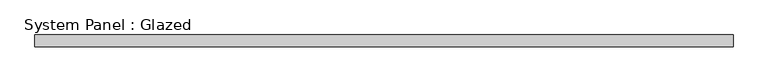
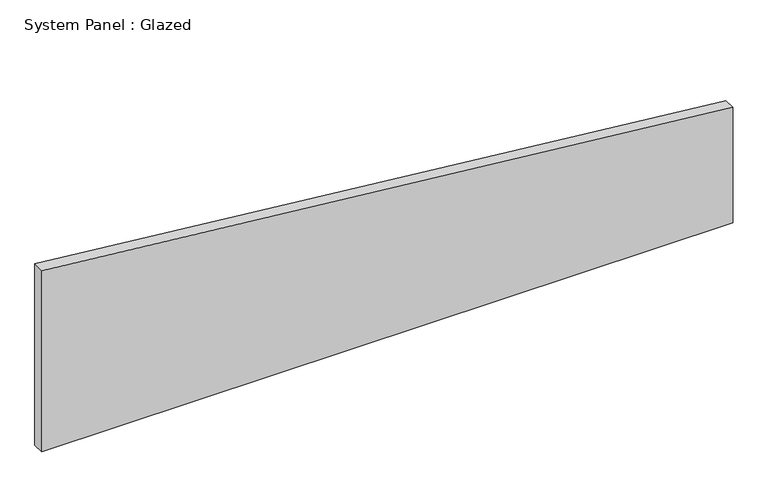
"""IFC4 building model written with IfcOpenShell, lengths in millimetres: plate geometry, System Panel : Glazed."""

from ifc_helpers import new_model, si_unit, frame, origin, place, context, project, spatial, polyline, outline, extrude, source, transform, mapped, element, save


def system_panel_glazed_9261d173(model_context):
    return source(origin(), model_context, "Body", "SweptSolid", [
        extrude(outline(polyline([(0.0, -735.8695652), (0.0, 735.8695652), (259.7221025, 735.8695652), (407.7050813, -735.8695652), (0.0, -735.8695652)])), frame((0.0, 24.5, 0.0), z_axis=(0.0, 1.0, 0.0), x_axis=(0.0, 0.0, 1.0)), (0.0, 0.0, 1.0), 25.0),
    ])


if __name__ == "__main__":
    model = new_model("IFC4")
    model_context = context("Model", 3, world=origin())
    ifc_project = project(units=[si_unit("LENGTHUNIT", "METRE", prefix="MILLI")], contexts=[model_context])
    site = spatial("IfcSite", under=ifc_project)
    building = spatial("IfcBuilding", under=site)
    placement = place(None, origin())
    system_panel_glazed_shape = system_panel_glazed_9261d173(model_context)
    element("IfcPlate", 1, ObjectType="System Panel : Glazed", at=placement, inside=building, context=model_context, shape_type="MappedRepresentation", body=[
        mapped(system_panel_glazed_shape, transform((0.0, 0.0, 0.0), x_axis=(1.0, 0.0, 0.0), y_axis=(0.0, 1.0, 0.0), z_axis=(0.0, 0.0, 1.0))),
    ])
    save(model, "model.ifc")
